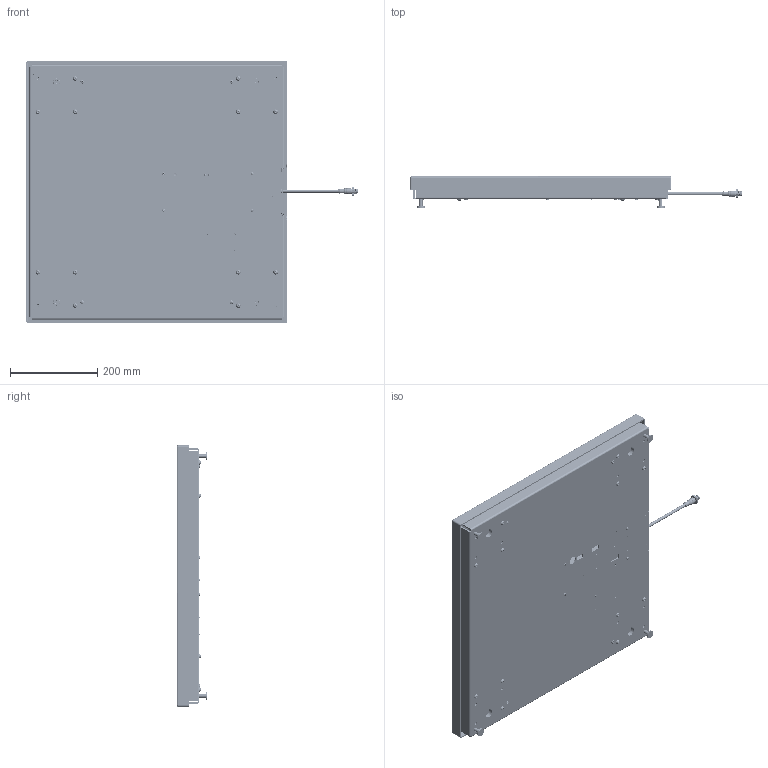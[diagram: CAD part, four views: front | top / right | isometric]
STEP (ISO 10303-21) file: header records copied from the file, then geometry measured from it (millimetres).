
FILE_DESCRIPTION (( 'STEP AP214' ), '1' );
FILE_NAME ('HI2424SBD-1.3K.STEP', '2019-08-15T20:22:36', ( '' ), ( '' ), 'SwSTEP 2.0', 'SolidWorks 2017', '' );
FILE_SCHEMA (( 'AUTOMOTIVE_DESIGN' ));
Length unit declared in the file: millimetre
Products named in the file (55): pan cross head_ai_CR-PHMS 0.138-32x0.375x0.375-N; 0075175_84-001611; 0075200_93505A451; 0074531; pan cross head_ai_CR-PHMS 0.138-32x0.3125x0.3125-N; 0075295; machine screw nut hex_ai_MSHXNUT 0.3125-18-D-N; 0530-0629-XX; 0075172_A7; 0074915_Modified By Hardy_Default<As Machined>; 6007-0055; 2505-0012; 0074918; 5121-0013; flat washer type a selected narrow_ai_Selected Narrow FW 0.125; 0530-0865-01-0; 0074904; flat head screw_ai_CR-FHMS 0.164-32x0.875x0.875-N-A2.70; 0514-0239-01-0; 0075290; 0074533; 0018546; 0535-0470-03; socket head cap screw_am_B18.3.1M - 8 x 1.25 x 20 Hex SHCS -- 20NHX-A2.70; 0075231_PBSH-600kg 600 X 600; 2815-0158_91780A133; 2814-0098-0_90633A007; 2814-T011_90631A005; 0075294; 4815-0102; pan cross head_ai_CR-PHMS 0.164-32x0.3125x0.3125-N-A2.70; 2143-T013; 2817-0272-0_90402A146; 0074532; 0075173_B7; 0075293; 2143-T004; 0075309; 0074757_Modified By Hardy; 0078239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
Assembly tree (111 placements, depth 4):
  HI2424SBD-1.3K
    0074904
      0074915_Modified By Hardy_Default<As Machined>
      0074918  x4
      0078239
    0075309
    0075175_84-001611  x4
      0075172_A7
      0075174_7
      0075173_B7
    machine screw nut hex_ai_MSHXNUT 0.3125-18-D-N  x4
    0074757_Modified By Hardy
    0075198  x4
    0075200_93505A451  x4
    0075290
      0075233
      0018546  x4
      0075287_C2 CHIP
      0075295  x4
        0075294
        0075293
    pan cross head_ai_CR-PHMS 0.164-32x0.3125x0.3125-N-A2.70  x4
    0074533  x4
      0074532
      socket head cap screw_am_B18.3.1M - 8 x 1.25 x 20 Hex SHCS -- 20NHX-A2.70
      0074531
      0077452
    0075231_PBSH-600kg 600 X 600  x4
      0075230_91780A198
      0075232_80-001903
      flat head screw_ai_CR-FHMS 0.164-32x0.875x0.875-N-A2.70
      pan cross head_ai_CR-PHMS 0.164-32x0.3125x0.3125-N-A2.70
    socket button head cap screw_am_B18.3.4M - 6 x 1.0 x 20 SBHCS --N-A2.70  x12
    2814-0098-0_90633A007  x2
    0514-0239-01-0
    2817-0272-0_90402A146
    socket head cap screw_am_B18.3.1M - 4 x 0.7 x 8 Hex SHCS -- 8NHX-A2.70
    0535-0470-03
      0534-0470-02
      2807-0008
      5119-0012
      5121-0013
      4815-0102  x2
    2505-0012
    0530-0865-01-0
    2815-0158_91780A133  x4
    pan cross head_ai_CR-PHMS 0.138-32x0.375x0.375-N
    pan cross head_ai_CR-PHMS 0.138-32x0.3125x0.3125-N  x8
    6007-0055
    6032-0044
    2143-T004
    2143-T013
    flat washer type a selected narrow_ai_Selected Narrow FW 0.125
    2814-T011_90631A005
    0530-0628-01
    0530-0629-XX
Bounding box: 762.12 x 71.16 x 600 mm (x, y, z)
Volume: 3627735 mm3; surface area: 2077929.9 mm2
Topology: 233 solids, 248 shells, 12742 faces, 33180 edges, 21397 vertices
Faces by surface type: plane 7941, cylinder 2473, bspline 1144, cone 880, torus 240, sphere 64
Entity records: 383726 total; most frequent: CARTESIAN_POINT 91285, ORIENTED_EDGE 48210, DIRECTION 39757, EDGE_CURVE 24142, LINE 18055, VECTOR 18055, VERTEX_POINT 15840, AXIS2_PLACEMENT_3D 10851
